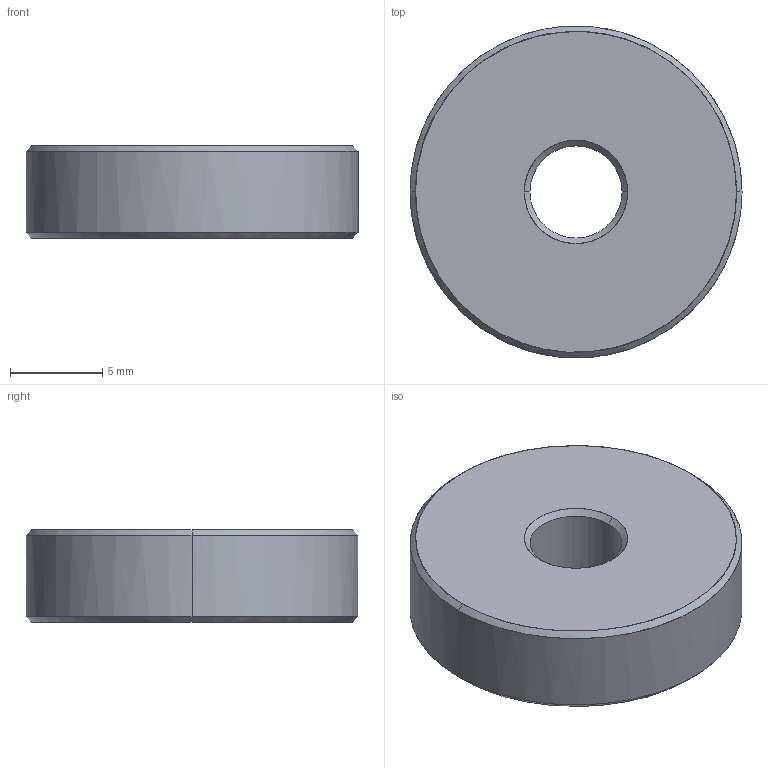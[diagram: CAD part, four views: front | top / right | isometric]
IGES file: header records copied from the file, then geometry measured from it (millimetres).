
Global section: file name: E:\UnigraphicsGraphicData\MISUMI_PRESS-PARTS\IGES\3d_r8-18_00103_r00.igs; native system: NX V5.0; preprocessor: UGS NX IGES V5.0; author: MISUMI; date: 20110105.162335; units: millimetre
Bounding box: 18 x 17.97 x 5 mm (x, y, z)
Surface area: 801.7 mm2 (no closed solid volume)
Topology: 0 solids, 0 shells, 14 faces, 80 edges, 80 vertices
Faces by surface type: bspline 14
